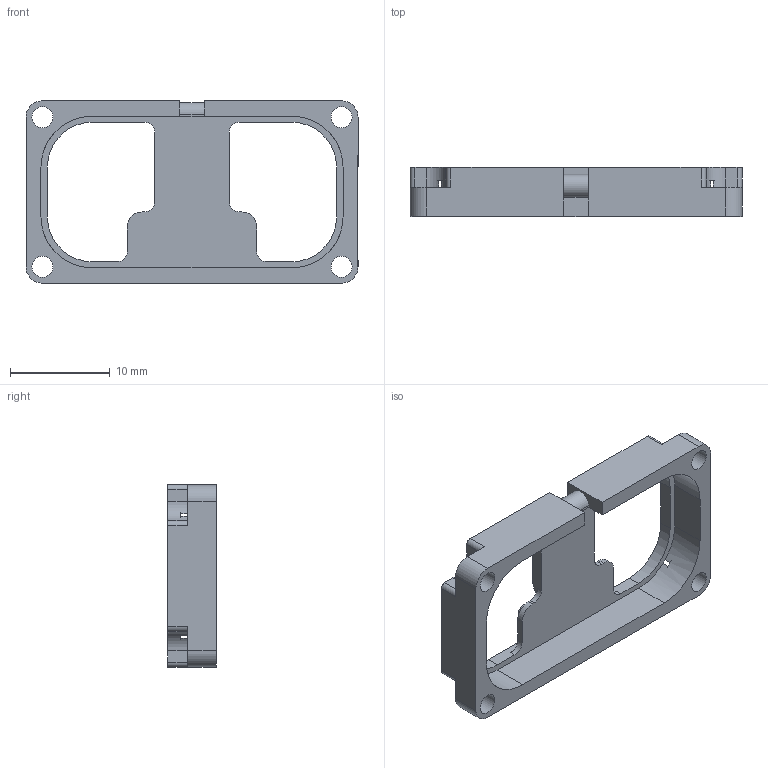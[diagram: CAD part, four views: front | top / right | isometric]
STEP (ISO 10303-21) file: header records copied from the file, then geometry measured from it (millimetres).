
FILE_DESCRIPTION (( 'STEP AP214' ), '1' );
FILE_NAME ('Mounting Frame.STEP', '2025-08-12T12:25:48', ( '' ), ( '' ), 'SwSTEP 2.0', 'SolidWorks 2018', '' );
FILE_SCHEMA (( 'AUTOMOTIVE_DESIGN' ));
Length unit declared in the file: millimetre
Products named in the file (1): Mounting Frame
Bounding box: 33.3 x 4.9 x 18.3 mm (x, y, z)
Volume: 840.6 mm3; surface area: 1661.5 mm2
Topology: 1 solids, 1 shells, 86 faces, 276 edges, 184 vertices
Faces by surface type: plane 45, cylinder 41
Full cylindrical faces by diameter (mm): 1.5 x2, 2.1 x4
Entity records: 3122 total; most frequent: DIRECTION 542, CARTESIAN_POINT 541, ORIENTED_EDGE 540, EDGE_CURVE 270, AXIS2_PLACEMENT_3D 185, VERTEX_POINT 184, VECTOR 172, LINE 172
